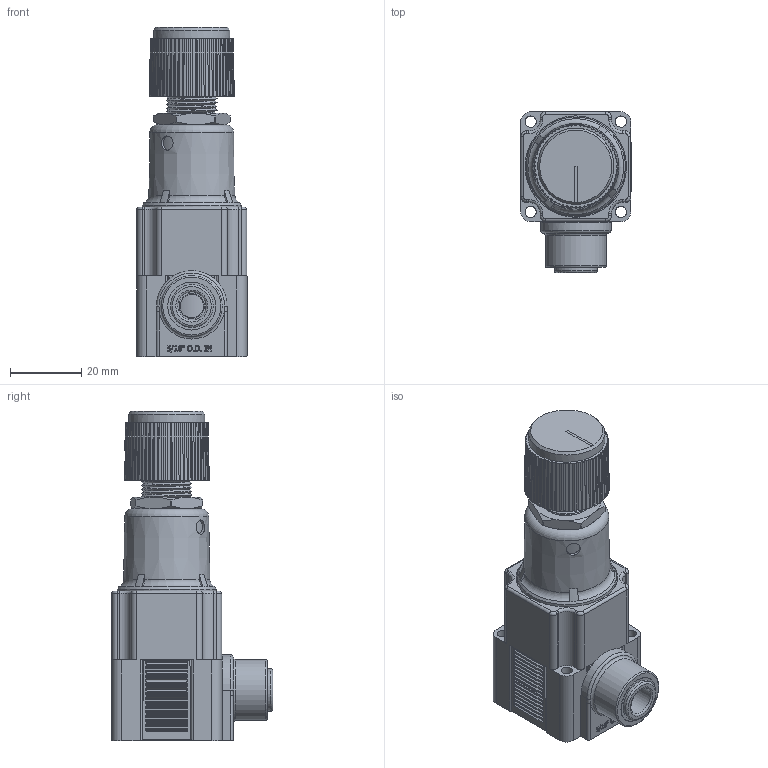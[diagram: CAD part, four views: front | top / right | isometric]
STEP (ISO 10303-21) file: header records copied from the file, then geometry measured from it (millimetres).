
FILE_DESCRIPTION(/* description */ (''),/* implementation_level */ '2;1');
FILE_NAME(/* name */ 'K:\Normteile INVENTOR\Air-Logic\Regulators\NR4000\NR 4___ 6 Push-In Fittings for 5''16 O.D. Tube In.igs.ipt.stp',/* time_stamp */ '2020-05-27T10:51:02+02:00',/* author */ ('Paul'),/* organization */ (''),/* preprocessor_version */ 'ST-DEVELOPER v18',/* originating_system */ 'Autodesk Inventor 2020',/* authorisation */ '');
FILE_SCHEMA (('AUTOMOTIVE_DESIGN { 1 0 10303 214 3 1 1 }'));
Length unit declared in the file: inch
Products named in the file (1): NR 4___ 6 Push-In Fittings for 5'16 O.D. Tube In.igs
Bounding box: 31.06 x 45.41 x 92.65 mm (x, y, z)
Volume: 57760 mm3; surface area: 19925.3 mm2
Topology: 1 solids, 1 shells, 1045 faces, 2693 edges, 1726 vertices
Faces by surface type: plane 524, cylinder 333, cone 82, bspline 80, torus 26
Full cylindrical faces by diameter (mm): 3.175 x4, 3.988 x1, 4.039 x1, 7.061 x1, 8.001 x1, 9.169 x1, 9.398 x1, 11.972 x1, 12.014 x1, 12.903 x1, 13.513 x1, 14.288 x2, 17.094 x1, 19.406 x1, 21.476 x1, 26.264 x1, 27.94 x1, 28.575 x1
Entity records: 40941 total; most frequent: CARTESIAN_POINT 14183, DIRECTION 5388, ORIENTED_EDGE 5386, EDGE_CURVE 2693, AXIS2_PLACEMENT_3D 2008, VERTEX_POINT 1726, LINE 1372, VECTOR 1372
